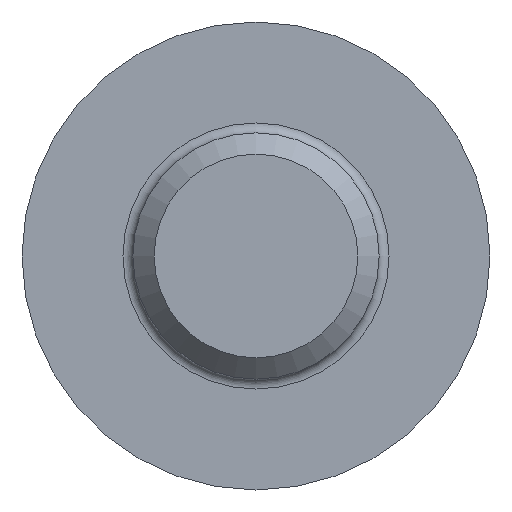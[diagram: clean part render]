
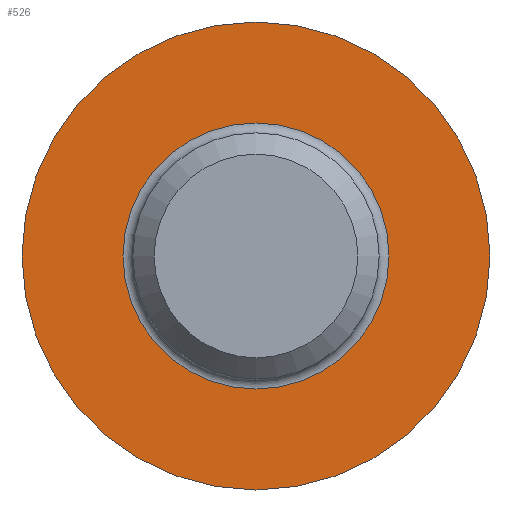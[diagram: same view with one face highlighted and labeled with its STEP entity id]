
A CAD part, left-side view. The second image highlights one B-rep face of the part: STEP entity #526.
In plain terms, the highlighted planar face has unit normal (-1, 0, 0).
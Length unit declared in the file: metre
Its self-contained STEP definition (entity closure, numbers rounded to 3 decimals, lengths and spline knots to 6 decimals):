
#59=CIRCLE('',#595,0.00475);
#60=CIRCLE('',#597,0.0027);
#100=ORIENTED_EDGE('',*,*,#255,.F.);
#101=ORIENTED_EDGE('',*,*,#254,.T.);
#254=EDGE_CURVE('',#332,#332,#59,.T.);
#255=EDGE_CURVE('',#333,#333,#60,.T.);
#332=VERTEX_POINT('',#859);
#333=VERTEX_POINT('',#862);
#425=EDGE_LOOP('',(#100));
#426=EDGE_LOOP('',(#101));
#463=FACE_BOUND('',#425,.T.);
#464=FACE_BOUND('',#426,.T.);
#498=PLANE('',#596);
#526=ADVANCED_FACE('',(#463,#464),#498,.F.);
#595=AXIS2_PLACEMENT_3D('',#858,#697,#698);
#596=AXIS2_PLACEMENT_3D('',#860,#699,#700);
#597=AXIS2_PLACEMENT_3D('',#861,#701,#702);
#697=DIRECTION('',(-1.,0.,0.));
#698=DIRECTION('',(0.,0.,-1.));
#699=DIRECTION('',(1.,0.,0.));
#700=DIRECTION('',(0.,0.,1.));
#701=DIRECTION('',(-1.,0.,0.));
#702=DIRECTION('',(0.,0.,-1.));
#858=CARTESIAN_POINT('',(-0.052677,-0.010284,-0.025701));
#859=CARTESIAN_POINT('',(-0.052677,-0.010284,-0.030451));
#860=CARTESIAN_POINT('',(-0.052677,-0.010284,-0.029426));
#861=CARTESIAN_POINT('',(-0.052677,-0.010284,-0.025701));
#862=CARTESIAN_POINT('',(-0.052677,-0.010284,-0.028401));
